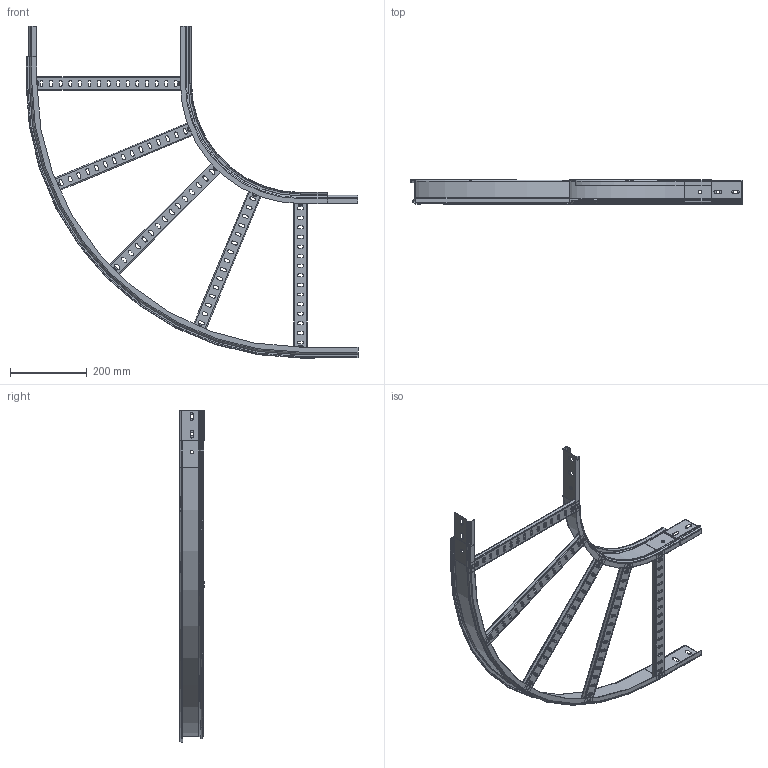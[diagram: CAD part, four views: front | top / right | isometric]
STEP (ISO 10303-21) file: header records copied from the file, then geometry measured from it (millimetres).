
FILE_DESCRIPTION (( 'STEP AP203' ), '1' );
FILE_NAME ('400x63.step', '2023-08-01T07:34:24', ( '' ), ( '' ), 'SwSTEP 2.0', 'SolidWorks 2022', '' );
FILE_SCHEMA (( 'CONFIG_CONTROL_DESIGN' ));
Length unit declared in the file: millimetre
Products named in the file (4): Travesaño RAT35 FER GS_400; FER_EXTERIOR CP_Circular_Enchufable_400x63; 400x63; FER_INTERIOR CP_Circular_Enchufable_60
Assembly tree (7 placements, depth 2):
  400x63
    FER_INTERIOR CP_Circular_Enchufable_60
    Travesaño RAT35 FER GS_400  x5
    FER_EXTERIOR CP_Circular_Enchufable_400x63
Bounding box: 865.4 x 64.2 x 865.4 mm (x, y, z)
Volume: 199019.1 mm3; surface area: 715075 mm2
Topology: 5 solids, 11 shells, 906 faces, 2294 edges, 1426 vertices
Faces by surface type: plane 476, cylinder 308, torus 102, cone 18, bspline 2
Entity records: 12626 total; most frequent: CARTESIAN_POINT 2199, DIRECTION 2168, ORIENTED_EDGE 1964, EDGE_CURVE 1014, AXIS2_PLACEMENT_3D 773, VERTEX_POINT 626, LINE 622, VECTOR 622
